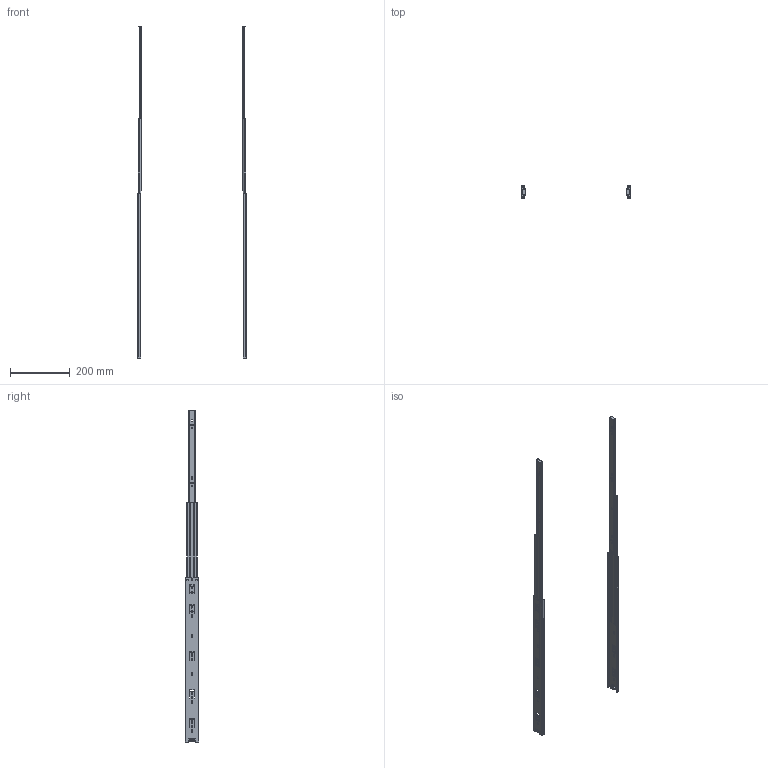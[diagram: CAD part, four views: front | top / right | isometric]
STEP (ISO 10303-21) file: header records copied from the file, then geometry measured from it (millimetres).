
FILE_DESCRIPTION(/* description */ (''),/* implementation_level */ '2;1');
FILE_NAME(/* name */ 'D:\$Workingspace\Designs\Katalog\Cadsoft\GTV Prowadnice\Prowadnice GTV_bryły 3D\PK-0H45550GX_wysunieta.stp',/* time_stamp */ '2016-11-22T11:52:46+01:00',/* author */ ('tomaszw'),/* organization */ (''),/* preprocessor_version */ 'ST-DEVELOPER v16.1',/* originating_system */ 'Autodesk Inventor 2016',/* authorisation */ '');
FILE_SCHEMA (('AUTOMOTIVE_DESIGN { 1 0 10303 214 3 1 1 }'));
Length unit declared in the file: millimetre
Products named in the file (5): Blokada_5; PK-0H45_1-550-GX; PK-0H45_2-550-GX; PK-0H45_3-550-GX; PK-0H45-_-GX
Assembly tree (8 placements, depth 2):
  PK-0H45-_-GX
    Blokada_5  x2
    PK-0H45_1-550-GX  x2
    PK-0H45_2-550-GX  x2
    PK-0H45_3-550-GX  x2
Bounding box: 364 x 44.5 x 1110 mm (x, y, z)
Volume: 164389.4 mm3; surface area: 335858.7 mm2
Topology: 8 solids, 8 shells, 544 faces, 1576 edges, 1048 vertices
Faces by surface type: cylinder 280, plane 260, cone 4
Full cylindrical faces by diameter (mm): 4.5 x6, 5 x2, 5.1 x2, 6 x10, 7 x4
Entity records: 9549 total; most frequent: DIRECTION 1616, CARTESIAN_POINT 1611, ORIENTED_EDGE 1552, EDGE_CURVE 776, AXIS2_PLACEMENT_3D 563, VERTEX_POINT 524, LINE 490, VECTOR 490
